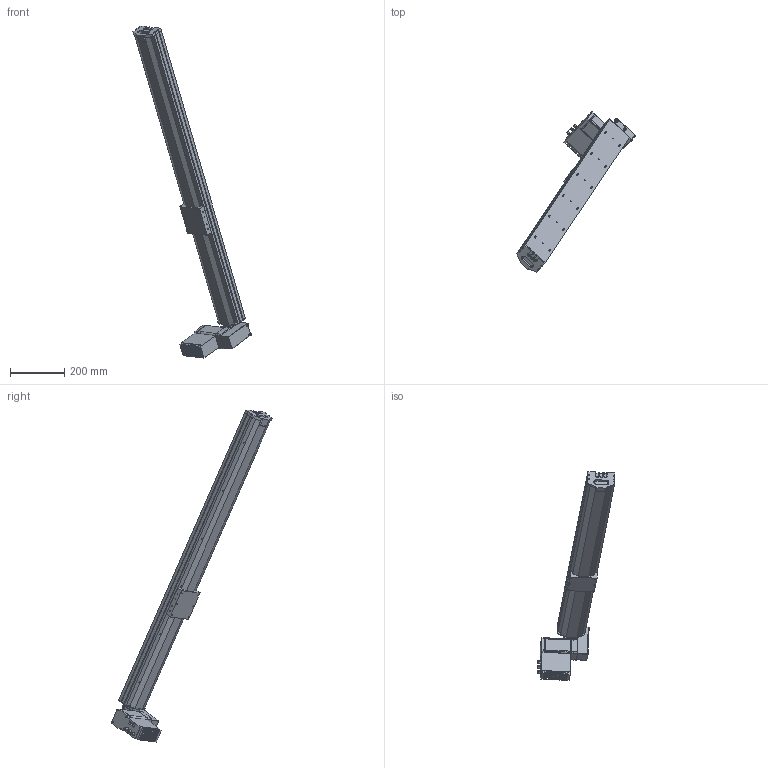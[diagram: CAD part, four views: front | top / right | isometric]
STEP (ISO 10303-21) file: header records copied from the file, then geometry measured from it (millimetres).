
FILE_DESCRIPTION (( 'STEP AP203' ), '1' );
FILE_NAME ('S10 CBH RT S1200.STEP', '2012-10-01T11:46:01', ( '' ), ( '' ), 'SwSTEP 2.0', 'SolidWorks 2010', '' );
FILE_SCHEMA (( 'CONFIG_CONTROL_DESIGN' ));
Length unit declared in the file: millimetre
Products named in the file (9): palette tbh; S10 CBH RT S1200; plaque de bout; axe 1200; embout; moteur M3; MOTEUR GMI 61 ; Plaque racord_; moteur M3_1
Assembly tree (7 placements, depth 3):
  S10 CBH RT S1200
    plaque de bout
      Plaque racord_
      moteur M3_1
    palette tbh
    MOTEUR GMI 61 
    axe 1200
    embout
  moteur M3
Bounding box: 438.14 x 593.54 x 1225.75 mm (x, y, z)
Volume: 7250149.6 mm3; surface area: 756071.7 mm2
Topology: 5 solids, 18 shells, 746 faces, 1938 edges, 1220 vertices
Faces by surface type: plane 380, cylinder 263, cone 68, torus 23, bspline 8, sphere 4
Entity records: 25949 total; most frequent: CARTESIAN_POINT 6712, DIRECTION 3885, ORIENTED_EDGE 3640, EDGE_CURVE 1870, AXIS2_PLACEMENT_3D 1333, VERTEX_POINT 1220, LINE 1219, VECTOR 1219
